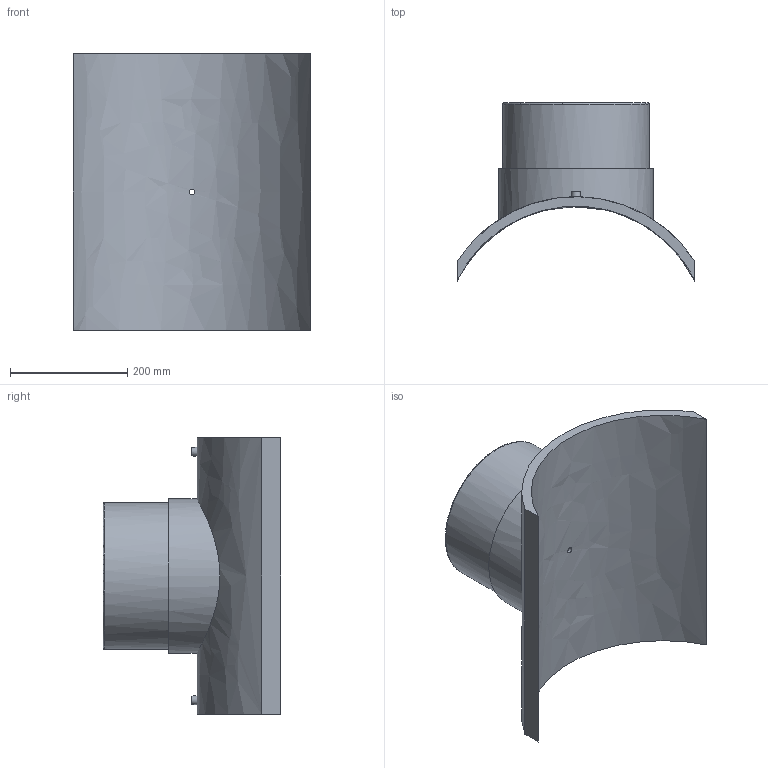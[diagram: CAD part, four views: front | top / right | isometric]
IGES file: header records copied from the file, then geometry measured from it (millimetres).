
Global section: file name: 495803450250T; native system: Autodesk Inventor 2019; preprocessor: unknown; author: KIM; date: 20240404.114844; units: millimetre
Bounding box: 405 x 302.92 x 470 mm (x, y, z)
Volume: 7111492.3 mm3; surface area: 765884.9 mm2
Topology: 1 solids, 1 shells, 29 faces, 60 edges, 43 vertices
Faces by surface type: bspline 29
